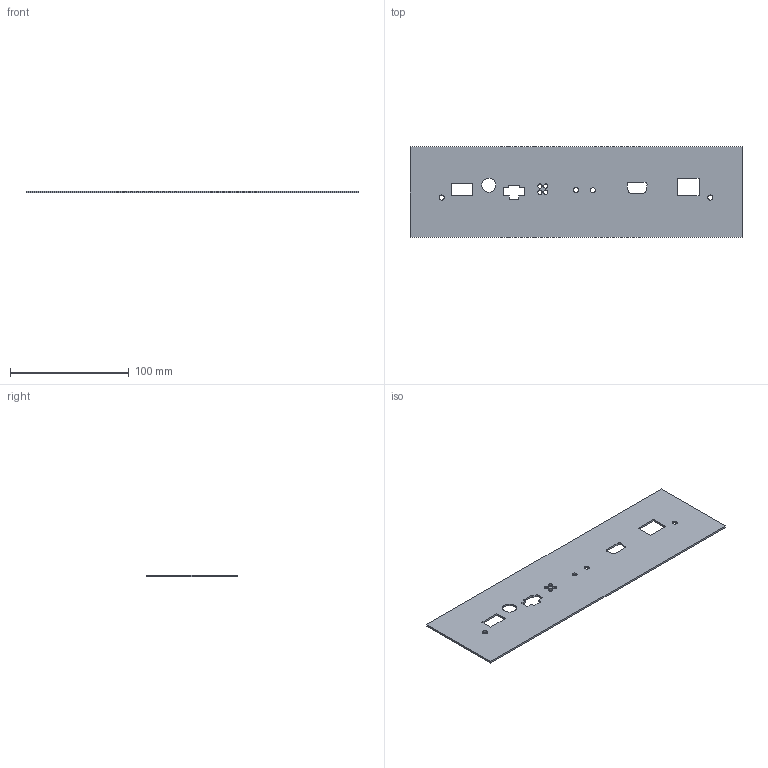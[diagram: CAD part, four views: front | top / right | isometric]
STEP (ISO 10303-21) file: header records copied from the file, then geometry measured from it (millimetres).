
FILE_DESCRIPTION((''),'2;1');
FILE_NAME('PLATE_PANEL_MOUNT_CATFISH','2009-10-05T',('tbeno'),(''),'PRO/ENGINEER BY PARAMETRIC TECHNOLOGY CORPORATION, 2006300','PRO/ENGINEER BY PARAMETRIC TECHNOLOGY CORPORATION, 2006300','');
FILE_SCHEMA(('CONFIG_CONTROL_DESIGN'));
Length unit declared in the file: inch
Products named in the file (1): PLATE_PANEL_MOUNT_CATFISH
Bounding box: 279.4 x 76.2 x 1.59 mm (x, y, z)
Volume: 32263.3 mm3; surface area: 42351.8 mm2
Topology: 1 solids, 1 shells, 60 faces, 174 edges, 116 vertices
Faces by surface type: plane 30, cylinder 30
Entity records: 2090 total; most frequent: DIRECTION 354, CARTESIAN_POINT 350, ORIENTED_EDGE 348, EDGE_CURVE 174, AXIS2_PLACEMENT_3D 120, VERTEX_POINT 116, VECTOR 114, LINE 114
